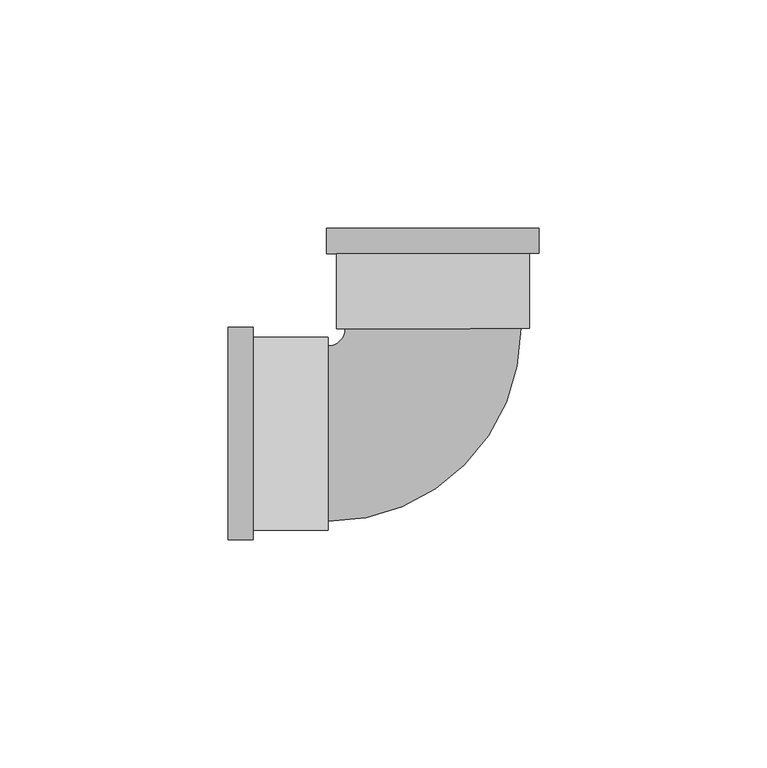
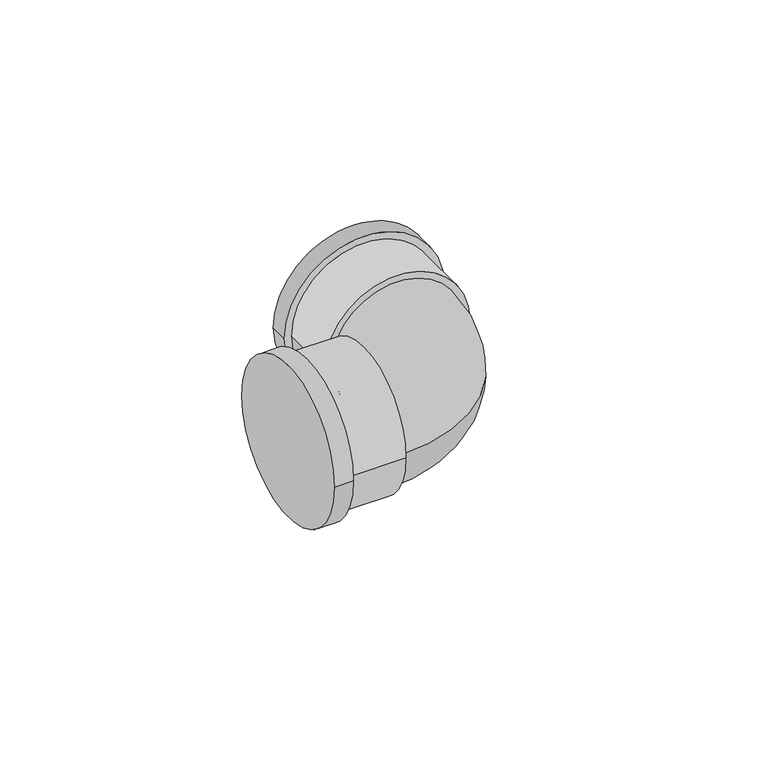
"""IFC4 building model written with IfcOpenShell, lengths in millimetres: pipe fitting geometry, Cotovelo - PVC - CW : Padrão."""

from ifc_helpers import new_model, si_unit, point, frame, origin, place, context, project, spatial, circle_curve, ellipse_curve, trimmed, source, transform, mapped, element, save
from ifc_brep_helpers import plane_surface, cylinder_surface, revolved_surface, advanced_brep


def pipe_fitting_fd5720dd(model_context):
    return source(origin(), model_context, "Body", "AdvancedBrep", [
        advanced_brep(
        [(-45.042016, -23.2925, 0.0), (-45.042016, 23.2925, 0.0), (-39.542016, -23.2925, 0.0), (-39.542016, 23.2925, 0.0), (-39.542016, -21.175, 0.0), (-39.542016, 21.175, 0.0), (-23.042016, 21.175, 0.0), (-23.042016, -21.175, 0.0), (-23.042016, -19.25, 0.0), (-23.042016, 19.25, 0.0), (-19.2920222, 23.0068442, 0.0), (19.2079137, 23.077111, 0.0), (21.1329105, 23.0806243, 0.0), (-21.217019, 23.0033308, 0.0), (-23.374668, 44.9994295, 0.0), (23.2102545, 45.0844524, 0.0), (21.1027961, 39.5805969, 0.0), (-21.2471334, 39.5033033, 0.0), (-23.3646298, 39.4994387, 0.0), (23.2202926, 39.5844615, 0.0)],
        [
            (0, 1, circle_curve(frame((-45.042016, 0.0, 0.0), z_axis=(-1.0, 0.0, 0.0), x_axis=(0.0, 1.0, 0.0)), 23.2925)),
            (1, 0, circle_curve(frame((-45.042016, 0.0, 0.0), z_axis=(-1.0, 0.0, 0.0), x_axis=(0.0, 1.0, 0.0)), 23.2925)),
            (2, 3, circle_curve(frame((-39.542016, 0.0, 0.0), z_axis=(1.0, 0.0, 0.0), x_axis=(0.0, 1.0, 0.0)), 23.2925)),
            (3, 2, circle_curve(frame((-39.542016, 0.0, 0.0), z_axis=(1.0, 0.0, 0.0), x_axis=(0.0, 1.0, 0.0)), 23.2925)),
            (4, 5, circle_curve(frame((-39.542016, 0.0, 0.0), z_axis=(-1.0, 0.0, 0.0), x_axis=(0.0, -1.0, 0.0)), 21.175)),
            (5, 4, circle_curve(frame((-39.542016, 0.0, 0.0), z_axis=(-1.0, 0.0, 0.0), x_axis=(0.0, -1.0, 0.0)), 21.175)),
            (0, 2),
            (3, 1),
            (6, 7, circle_curve(frame((-23.042016, 0.0, 0.0), z_axis=(1.0, 0.0, 0.0), x_axis=(0.0, -1.0, 0.0)), 21.175)),
            (7, 6, circle_curve(frame((-23.042016, 0.0, 0.0), z_axis=(1.0, 0.0, 0.0), x_axis=(0.0, -1.0, 0.0)), 21.175)),
            (8, 9, circle_curve(frame((-23.042016, 0.0, 0.0), z_axis=(-1.0, 0.0, 0.0), x_axis=(0.0, 1.0, 0.0)), 19.25)),
            (9, 8, circle_curve(frame((-23.042016, 0.0, 0.0), z_axis=(-1.0, 0.0, 0.0), x_axis=(0.0, 1.0, 0.0)), 19.25)),
            (6, 5),
            (4, 7),
            (10, 9, circle_curve(frame((-23.042016, 23.0, 0.0), z_axis=(0.0, 0.0, -1.0), x_axis=(0.0, -1.0, 0.0)), 3.75)),
            (8, 11, circle_curve(frame((-23.042016, 23.0, 0.0), z_axis=(0.0, 0.0, 1.0), x_axis=(0.0, -1.0, 0.0)), 42.25)),
            (11, 10, circle_curve(frame((-0.0420543, 23.0419776, 0.0), z_axis=(0.0018251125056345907, -0.9999983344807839, 0.0), x_axis=(-0.9999983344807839, -0.0018251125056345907, 0.0)), 19.25)),
            (10, 11, circle_curve(frame((-0.0420543, 23.0419776, 0.0), z_axis=(0.0018251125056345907, -0.9999983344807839, 0.0), x_axis=(-0.9999983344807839, -0.0018251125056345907, 0.0)), 19.25)),
            (12, 13, circle_curve(frame((-0.0420543, 23.0419776, 0.0), z_axis=(0.0018251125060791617, -0.9999983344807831, 0.0), x_axis=(-0.9999983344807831, -0.0018251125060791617, 0.0)), 21.175)),
            (13, 12, circle_curve(frame((-0.0420543, 23.0419776, 0.0), z_axis=(0.0018251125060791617, -0.9999983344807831, 0.0), x_axis=(-0.9999983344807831, -0.0018251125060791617, 0.0)), 21.175)),
            (14, 15, circle_curve(frame((-0.0822067, 45.0419409, 0.0), z_axis=(-0.0018251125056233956, 0.999998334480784, 0.0), x_axis=(0.999998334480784, 0.0018251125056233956, 0.0)), 23.2925)),
            (15, 14, circle_curve(frame((-0.0822067, 45.0419409, 0.0), z_axis=(-0.0018251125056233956, 0.999998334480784, 0.0), x_axis=(0.999998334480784, 0.0018251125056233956, 0.0)), 23.2925)),
            (12, 16),
            (16, 17, circle_curve(frame((-0.0721686, 39.5419501, 0.0), z_axis=(0.0018251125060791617, -0.9999983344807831, 0.0), x_axis=(-0.9999983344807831, -0.0018251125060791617, 0.0)), 21.175)),
            (17, 13),
            (17, 16, circle_curve(frame((-0.0721686, 39.5419501, 0.0), z_axis=(0.0018251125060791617, -0.9999983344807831, 0.0), x_axis=(-0.9999983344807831, -0.0018251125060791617, 0.0)), 21.175)),
            (18, 19, circle_curve(frame((-0.0721686, 39.5419501, 0.0), z_axis=(0.0018251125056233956, -0.999998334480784, 0.0), x_axis=(0.999998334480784, 0.0018251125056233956, 0.0)), 23.2925)),
            (19, 18, circle_curve(frame((-0.0721686, 39.5419501, 0.0), z_axis=(0.0018251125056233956, -0.999998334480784, 0.0), x_axis=(0.999998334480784, 0.0018251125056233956, 0.0)), 23.2925)),
            (14, 18),
            (19, 15),
        ],
        [
            plane_surface(frame((-45.042016, 0.0, 0.0), z_axis=(-1.0, 0.0, 0.0), x_axis=(0.0, 0.0, 1.0))),
            plane_surface(frame((-39.542016, 0.0, 0.0), z_axis=(1.0, 0.0, 0.0), x_axis=(0.0, 0.0, 1.0))),
            cylinder_surface(frame((-45.042016, 0.0, 0.0), z_axis=(-1.0, 0.0, 0.0), x_axis=(0.0, 1.0, 0.0)), 23.2925),
            plane_surface(frame((-23.042016, 0.0, 0.0), z_axis=(1.0, 0.0, 0.0), x_axis=(0.0, 0.0, 1.0))),
            cylinder_surface(frame((-23.042016, 0.0, 0.0), z_axis=(1.0, 0.0, 0.0), x_axis=(0.0, -1.0, 0.0)), 21.175),
            revolved_surface(trimmed(ellipse_curve(frame((-23.042016, 0.0, 0.0), z_axis=(-1.0, 0.0, 0.0), x_axis=(0.0, 1.0, 0.0)), 19.25, 19.25), [point((-23.042016, -19.25, 0.0))], [point((-23.042016, 19.25, 0.0))], True, "CARTESIAN"), (-23.042016, 23.0, 0.0), (0.0, 0.0, 1.0)),
            revolved_surface(trimmed(ellipse_curve(frame((-23.042016, 0.0, 0.0), z_axis=(-1.0, 0.0, 0.0), x_axis=(0.0, 1.0, 0.0)), 19.25, 19.25), [point((-23.042016, 19.25, 0.0))], [point((-23.042016, -19.25, 0.0))], True, "CARTESIAN"), (-23.042016, 23.0, 0.0), (0.0, 0.0, 1.0)),
            plane_surface(frame((-0.0420543, 23.0419776, 0.0), z_axis=(0.0018251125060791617, -0.9999983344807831, 0.0), x_axis=(0.0, 0.0, 1.0))),
            plane_surface(frame((-0.0822067, 45.0419409, 0.0), z_axis=(-0.0018251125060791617, 0.9999983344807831, 0.0), x_axis=(0.0, 0.0, 1.0))),
            cylinder_surface(frame((-0.0420543, 23.0419776, 0.0), z_axis=(0.0018251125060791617, -0.9999983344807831, 0.0), x_axis=(-0.9999983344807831, -0.0018251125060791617, 0.0)), 21.175),
            plane_surface(frame((-0.0721686, 39.5419501, 0.0), z_axis=(0.0018251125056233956, -0.999998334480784, 0.0), x_axis=(0.0, 0.0, 1.0))),
            cylinder_surface(frame((-0.0822067, 45.0419409, 0.0), z_axis=(-0.0018251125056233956, 0.999998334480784, 0.0), x_axis=(0.999998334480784, 0.0018251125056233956, 0.0)), 23.2925),
        ],
        [
            (0, [[1, 2]]),
            (1, [[3, 4], [5, 6]]),
            (2, [[-1, 7, -4, 8]]),
            (2, [[-2, -8, -3, -7]]),
            (3, [[9, 10], [11, 12]]),
            (4, [[-9, 13, -5, 14]]),
            (4, [[-10, -14, -6, -13]]),
            (5, [[15, -11, 16, 17]]),
            (6, [[-15, 18, -16, -12]]),
            (7, [[19, 20], [-17, -18]]),
            (8, [[21, 22]]),
            (9, [[-19, 23, 24, 25]]),
            (9, [[-20, -25, 26, -23]]),
            (10, [[27, 28], [-24, -26]]),
            (11, [[-21, 29, -28, 30]]),
            (11, [[-22, -30, -27, -29]]),
        ],
    ),
    ])


if __name__ == "__main__":
    model = new_model("IFC4")
    model_context = context("Model", 3, world=origin())
    ifc_project = project(units=[si_unit("LENGTHUNIT", "METRE", prefix="MILLI")], contexts=[model_context])
    site = spatial("IfcSite", under=ifc_project)
    building = spatial("IfcBuilding", under=site)
    placement = place(None, origin())
    pipe_fitting_shape = pipe_fitting_fd5720dd(model_context)
    element("IfcPipeFitting", 1, ObjectType="Cotovelo - PVC - CW : Padrão", at=placement, inside=building, context=model_context, shape_type="MappedRepresentation", body=[
        mapped(pipe_fitting_shape, transform((0.0, 0.0, 0.0), x_axis=(1.0, 0.0, 0.0), y_axis=(0.0, 1.0, 0.0), z_axis=(0.0, 0.0, 1.0))),
    ])
    save(model, "model.ifc")
